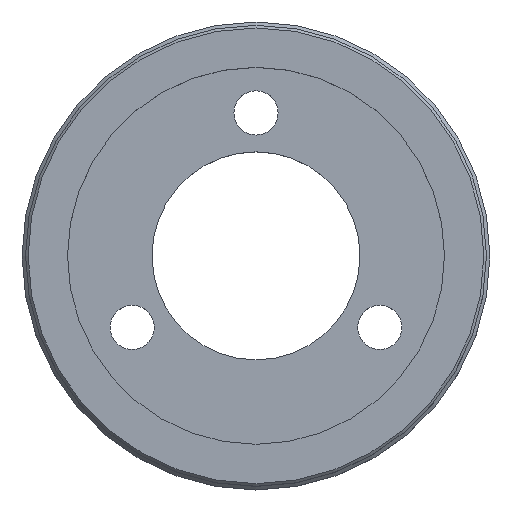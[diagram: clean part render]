
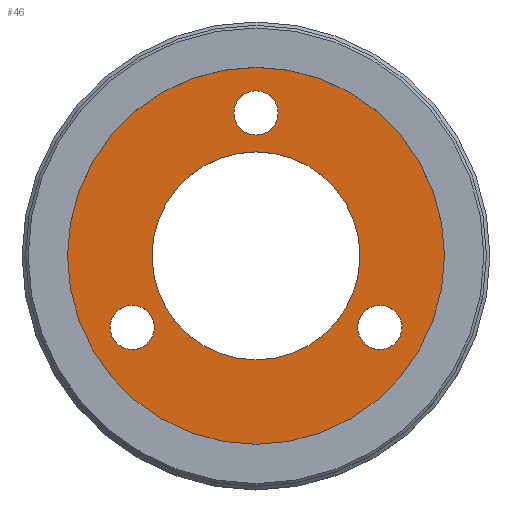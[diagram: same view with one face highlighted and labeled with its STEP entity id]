
A CAD part, top view. The second image highlights one B-rep face of the part: STEP entity #46.
In plain terms, the highlighted planar face has unit normal (0, 0, 1).
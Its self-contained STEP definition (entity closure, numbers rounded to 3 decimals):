
#40=PLANE('',#273);
#46=ADVANCED_FACE('',(#76,#77,#78,#79,#80),#40,.F.);
#76=FACE_BOUND('',#118,.T.);
#77=FACE_BOUND('',#119,.T.);
#78=FACE_BOUND('',#120,.T.);
#79=FACE_BOUND('',#121,.T.);
#80=FACE_BOUND('',#122,.T.);
#118=EDGE_LOOP('',(#160));
#119=EDGE_LOOP('',(#161));
#120=EDGE_LOOP('',(#162));
#121=EDGE_LOOP('',(#163));
#122=EDGE_LOOP('',(#164));
#160=ORIENTED_EDGE('',*,*,#223,.T.);
#161=ORIENTED_EDGE('',*,*,#224,.T.);
#162=ORIENTED_EDGE('',*,*,#225,.T.);
#163=ORIENTED_EDGE('',*,*,#222,.T.);
#164=ORIENTED_EDGE('',*,*,#226,.F.);
#201=VERTEX_POINT('',#393);
#202=VERTEX_POINT('',#396);
#203=VERTEX_POINT('',#398);
#204=VERTEX_POINT('',#400);
#205=VERTEX_POINT('',#402);
#222=EDGE_CURVE('',#201,#201,#243,.T.);
#223=EDGE_CURVE('',#202,#202,#244,.T.);
#224=EDGE_CURVE('',#203,#203,#245,.T.);
#225=EDGE_CURVE('',#204,#204,#246,.T.);
#226=EDGE_CURVE('',#205,#205,#247,.T.);
#243=CIRCLE('',#267,8.);
#244=CIRCLE('',#269,1.7);
#245=CIRCLE('',#270,1.7);
#246=CIRCLE('',#271,1.7);
#247=CIRCLE('',#272,14.5);
#267=AXIS2_PLACEMENT_3D('',#392,#315,#316);
#269=AXIS2_PLACEMENT_3D('',#395,#319,#320);
#270=AXIS2_PLACEMENT_3D('',#397,#321,#322);
#271=AXIS2_PLACEMENT_3D('',#399,#323,#324);
#272=AXIS2_PLACEMENT_3D('',#401,#325,#326);
#273=AXIS2_PLACEMENT_3D('',#403,#327,#328);
#315=DIRECTION('',(0.,0.,-1.));
#316=DIRECTION('',(-1.,0.,0.));
#319=DIRECTION('',(0.,0.,-1.));
#320=DIRECTION('',(-1.,0.,0.));
#321=DIRECTION('',(0.,0.,-1.));
#322=DIRECTION('',(-1.,0.,0.));
#323=DIRECTION('',(0.,0.,-1.));
#324=DIRECTION('',(-1.,0.,0.));
#325=DIRECTION('',(0.,0.,-1.));
#326=DIRECTION('',(-1.,0.,0.));
#327=DIRECTION('',(0.,0.,-1.));
#328=DIRECTION('',(-1.,0.,0.));
#392=CARTESIAN_POINT('',(0.,0.,8.));
#393=CARTESIAN_POINT('',(-8.,0.,8.));
#395=CARTESIAN_POINT('',(9.526,-5.5,8.));
#396=CARTESIAN_POINT('',(7.826,-5.5,8.));
#397=CARTESIAN_POINT('',(-9.526,-5.5,8.));
#398=CARTESIAN_POINT('',(-11.226,-5.5,8.));
#399=CARTESIAN_POINT('',(0.,11.,8.));
#400=CARTESIAN_POINT('',(-1.7,11.,8.));
#401=CARTESIAN_POINT('',(0.,0.,8.));
#402=CARTESIAN_POINT('',(-14.5,0.,8.));
#403=CARTESIAN_POINT('',(0.,0.,8.));
